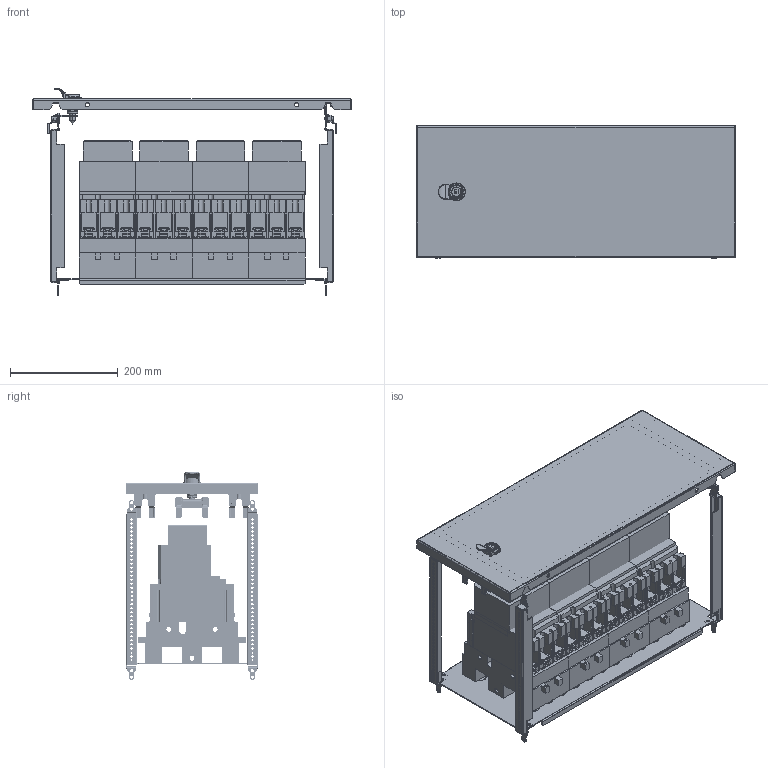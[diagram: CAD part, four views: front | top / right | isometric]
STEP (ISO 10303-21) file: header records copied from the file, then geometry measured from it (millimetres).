
FILE_DESCRIPTION(('CAx-IF Rec.Pracs.---Model Styling and Organization---1.2---2011-12-15','CAx-IF Rec.Pracs.---Geometric and Assembly Validation Properties---4.1---2014-06-16','CAx-IF Rec.Pracs.---PMI Polyline Presentation---2.0---2013-05-24'),'2;1');
FILE_NAME('R5PKEB7V62213 (P-MO).stp','2021-07-29T02:38:03+03:00',(''),(''),'STEP Interface 4.4 by CT CoreTechnologie','3D_Evolution4.4 by CT CoreTechnologie','');
FILE_SCHEMA(('AUTOMOTIVE_DESIGN { 1 0 10303 214 1 1 1 1 }'));
Length unit declared in the file: millimetre
Products named in the file (1): R5PKEB7V62213 (P-MO)
Bounding box: 594 x 245 x 386.9 mm (x, y, z)
Surface area: 2105496.1 mm2 (no closed solid volume)
Topology: 0 solids, 117 shells, 5324 faces, 14907 edges, 9859 vertices
Faces by surface type: plane 3595, cylinder 1257, bspline 472
Entity records: 181160 total; most frequent: CARTESIAN_POINT 42631, ORIENTED_EDGE 29712, DIRECTION 27273, EDGE_CURVE 14868, VECTOR 11543, LINE 11543, VERTEX_POINT 9931, AXIS2_PLACEMENT_3D 7865
